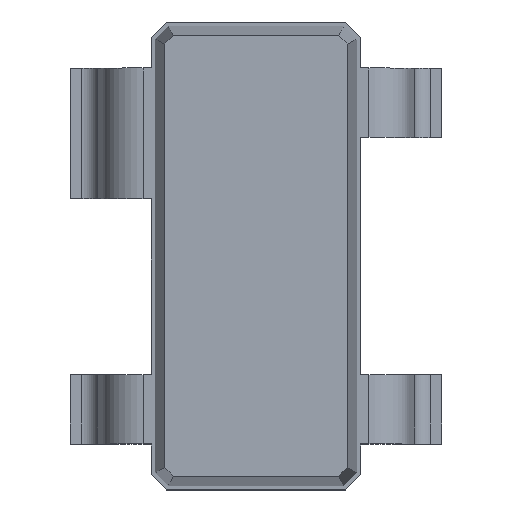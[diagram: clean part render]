
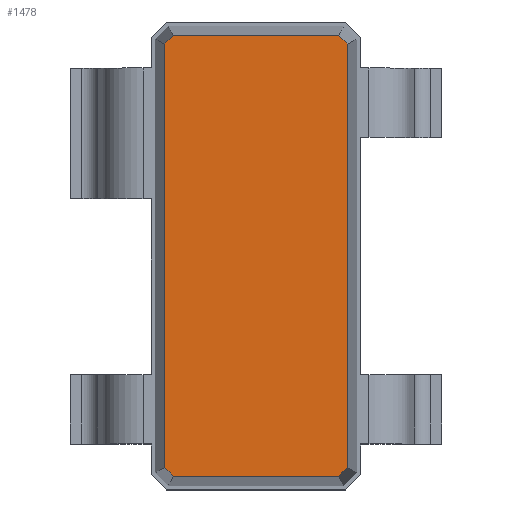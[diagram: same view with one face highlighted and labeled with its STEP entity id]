
A CAD part, top view. The second image highlights one B-rep face of the part: STEP entity #1478.
In plain terms, the highlighted planar face has unit normal (0, 0, 1).
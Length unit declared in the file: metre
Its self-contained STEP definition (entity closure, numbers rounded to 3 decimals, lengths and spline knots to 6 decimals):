
#225=ORIENTED_EDGE('',*,*,#620,.F.);
#226=ORIENTED_EDGE('',*,*,#621,.F.);
#227=ORIENTED_EDGE('',*,*,#622,.F.);
#228=ORIENTED_EDGE('',*,*,#617,.F.);
#229=ORIENTED_EDGE('',*,*,#608,.F.);
#230=ORIENTED_EDGE('',*,*,#615,.F.);
#231=ORIENTED_EDGE('',*,*,#623,.F.);
#232=ORIENTED_EDGE('',*,*,#624,.F.);
#608=EDGE_CURVE('',#794,#795,#936,.T.);
#615=EDGE_CURVE('',#800,#794,#941,.T.);
#617=EDGE_CURVE('',#795,#801,#943,.T.);
#620=EDGE_CURVE('',#803,#804,#946,.T.);
#621=EDGE_CURVE('',#805,#803,#947,.T.);
#622=EDGE_CURVE('',#801,#805,#948,.T.);
#623=EDGE_CURVE('',#806,#800,#949,.T.);
#624=EDGE_CURVE('',#804,#806,#950,.T.);
#794=VERTEX_POINT('',#2422);
#795=VERTEX_POINT('',#2424);
#800=VERTEX_POINT('',#2437);
#801=VERTEX_POINT('',#2442);
#803=VERTEX_POINT('',#2448);
#804=VERTEX_POINT('',#2449);
#805=VERTEX_POINT('',#2451);
#806=VERTEX_POINT('',#2454);
#936=LINE('',#2423,#1116);
#941=LINE('',#2438,#1121);
#943=LINE('',#2441,#1123);
#946=LINE('',#2447,#1126);
#947=LINE('',#2450,#1127);
#948=LINE('',#2452,#1128);
#949=LINE('',#2453,#1129);
#950=LINE('',#2455,#1130);
#1116=VECTOR('',#2001,1.);
#1121=VECTOR('',#2014,1.);
#1123=VECTOR('',#2018,1.);
#1126=VECTOR('',#2023,1.);
#1127=VECTOR('',#2024,1.);
#1128=VECTOR('',#2025,1.);
#1129=VECTOR('',#2026,1.);
#1130=VECTOR('',#2027,1.);
#1255=EDGE_LOOP('',(#225,#226,#227,#228,#229,#230,#231,#232));
#1335=FACE_BOUND('',#1255,.T.);
#1404=PLANE('',#1767);
#1478=ADVANCED_FACE('',(#1335),#1404,.T.);
#1767=AXIS2_PLACEMENT_3D('',#2446,#2021,#2022);
#2001=DIRECTION('',(-1.,0.,0.));
#2014=DIRECTION('',(-0.707,-0.707,0.));
#2018=DIRECTION('',(-0.707,0.707,0.));
#2021=DIRECTION('',(0.,0.,1.));
#2022=DIRECTION('',(0.352,-0.936,0.));
#2023=DIRECTION('',(1.,0.,0.));
#2024=DIRECTION('',(0.707,0.707,0.));
#2025=DIRECTION('',(0.,1.,0.));
#2026=DIRECTION('',(0.,-1.,0.));
#2027=DIRECTION('',(0.707,-0.707,0.));
#2422=CARTESIAN_POINT('',(0.167913,-0.120065,0.002695));
#2423=CARTESIAN_POINT('',(0.167913,-0.120065,0.002695));
#2424=CARTESIAN_POINT('',(0.166887,-0.120065,0.002695));
#2437=CARTESIAN_POINT('',(0.167965,-0.120013,0.002695));
#2438=CARTESIAN_POINT('',(0.167965,-0.120013,0.002695));
#2441=CARTESIAN_POINT('',(0.166887,-0.120065,0.002695));
#2442=CARTESIAN_POINT('',(0.166835,-0.120013,0.002695));
#2446=CARTESIAN_POINT('',(0.166887,-0.117335,0.002695));
#2447=CARTESIAN_POINT('',(0.166887,-0.117335,0.002695));
#2448=CARTESIAN_POINT('',(0.166887,-0.117335,0.002695));
#2449=CARTESIAN_POINT('',(0.167913,-0.117335,0.002695));
#2450=CARTESIAN_POINT('',(0.166835,-0.117387,0.002695));
#2451=CARTESIAN_POINT('',(0.166835,-0.117387,0.002695));
#2452=CARTESIAN_POINT('',(0.166835,-0.120013,0.002695));
#2453=CARTESIAN_POINT('',(0.167965,-0.117387,0.002695));
#2454=CARTESIAN_POINT('',(0.167965,-0.117387,0.002695));
#2455=CARTESIAN_POINT('',(0.167913,-0.117335,0.002695));
